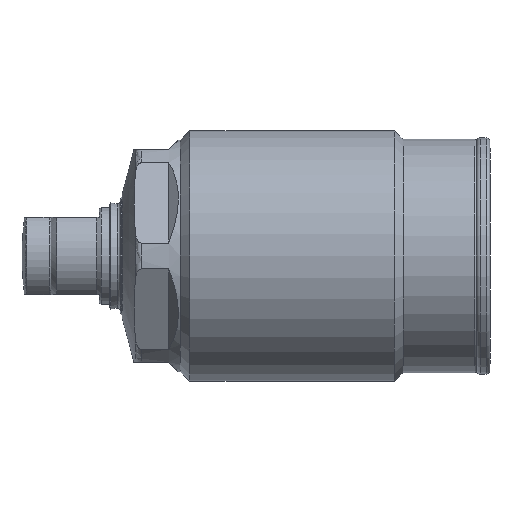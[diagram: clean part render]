
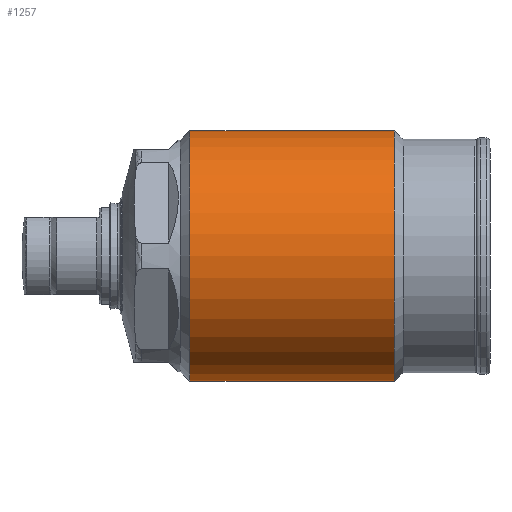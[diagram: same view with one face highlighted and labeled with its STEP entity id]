
A CAD part, left-side view. The second image highlights one B-rep face of the part: STEP entity #1257.
In plain terms, the highlighted cylindrical face has radius 13 mm (diameter 26 mm), a partial arc.
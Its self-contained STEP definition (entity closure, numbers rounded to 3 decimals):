
#950=CYLINDRICAL_SURFACE('',#3614,13.);
#993=LINE('',#4951,#1093);
#994=LINE('',#4952,#1094);
#1093=VECTOR('',#4043,1.);
#1094=VECTOR('',#4044,1.);
#1257=ADVANCED_FACE('',(#1493),#950,.T.);
#1493=FACE_OUTER_BOUND('',#1666,.T.);
#1666=EDGE_LOOP('',(#2134,#2135,#2136,#2137));
#2134=ORIENTED_EDGE('',*,*,#2856,.F.);
#2135=ORIENTED_EDGE('',*,*,#2989,.T.);
#2136=ORIENTED_EDGE('',*,*,#2857,.T.);
#2137=ORIENTED_EDGE('',*,*,#2990,.F.);
#2600=VERTEX_POINT('',#4943);
#2601=VERTEX_POINT('',#4945);
#2602=VERTEX_POINT('',#4949);
#2603=VERTEX_POINT('',#4950);
#2856=EDGE_CURVE('',#2603,#2601,#993,.T.);
#2857=EDGE_CURVE('',#2602,#2600,#994,.T.);
#2989=EDGE_CURVE('',#2603,#2602,#3289,.T.);
#2990=EDGE_CURVE('',#2601,#2600,#3290,.T.);
#3289=CIRCLE('',#3611,13.);
#3290=CIRCLE('',#3613,13.);
#3611=AXIS2_PLACEMENT_3D('',#5475,#4313,#4314);
#3613=AXIS2_PLACEMENT_3D('',#5477,#4317,#4318);
#3614=AXIS2_PLACEMENT_3D('',#5478,#4319,#4320);
#4043=DIRECTION('',(0.,1.,0.));
#4044=DIRECTION('',(0.,1.,0.));
#4313=DIRECTION('',(0.,1.,0.));
#4314=DIRECTION('',(0.,0.,1.));
#4317=DIRECTION('',(0.,1.,0.));
#4318=DIRECTION('',(0.,0.,1.));
#4319=DIRECTION('',(0.,1.,0.));
#4320=DIRECTION('',(0.,0.,-1.));
#4943=CARTESIAN_POINT('',(19.547,34.866,13.));
#4945=CARTESIAN_POINT('',(19.547,34.866,-13.));
#4949=CARTESIAN_POINT('',(19.547,13.666,13.));
#4950=CARTESIAN_POINT('',(19.547,13.666,-13.));
#4951=CARTESIAN_POINT('',(19.547,60.264,-13.));
#4952=CARTESIAN_POINT('',(19.547,60.264,13.));
#5475=CARTESIAN_POINT('',(19.547,13.666,0.));
#5477=CARTESIAN_POINT('',(19.547,34.866,0.));
#5478=CARTESIAN_POINT('',(19.547,60.264,0.));
